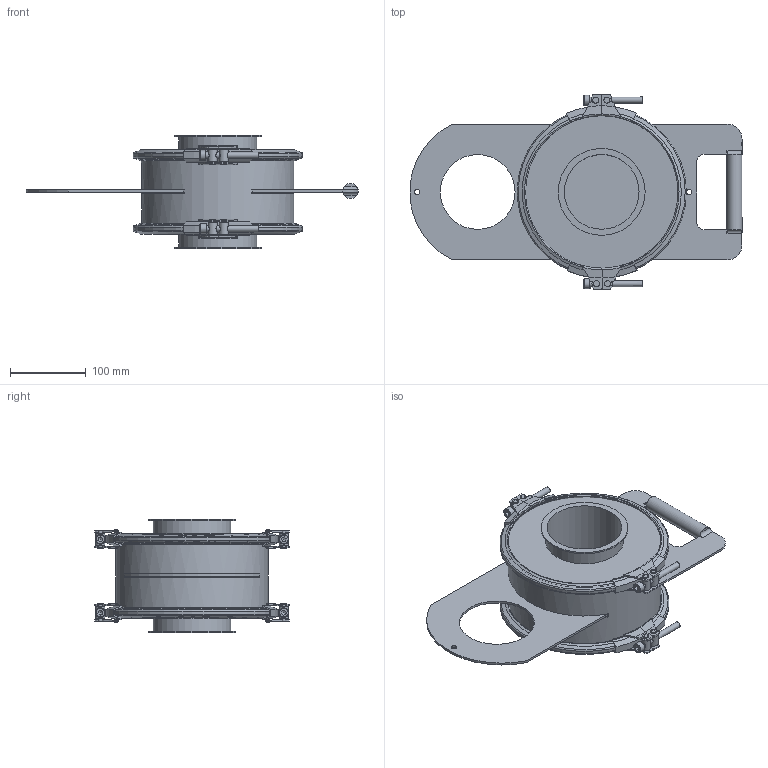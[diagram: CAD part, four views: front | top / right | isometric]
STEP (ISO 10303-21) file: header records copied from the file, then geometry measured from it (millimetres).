
FILE_DESCRIPTION((''),'2;1');
FILE_NAME('U:\Wolfgang\Marcel-3D\fertig\Kapitel 9\1021081.stp','2011-10-11T12:57:34',('iwienholt'),(''),'Autodesk Inventor 2010','Autodesk Inventor 2010','');
FILE_SCHEMA(('AUTOMOTIVE_DESIGN { 1 0 10303 214 1 1 1 1 }'));
Length unit declared in the file: millimetre
Products named in the file (10): 1021081; Rohr DN100; Schieber DN100; 2022055; 2022055-1; Verschluss b=224; Verschlussrolle; VerschlussrolleGewinde; ISO 4762 M8 x 70; 2022055-Dichtmasse
Assembly tree (17 placements, depth 3):
  1021081
    Rohr DN100
    Schieber DN100
    2022055  x2
      2022055-1
      Verschluss b=224
      Verschlussrolle
      VerschlussrolleGewinde
      ISO 4762 M8 x 70
      2022055-Dichtmasse
Bounding box: 439.63 x 257.99 x 150 mm (x, y, z)
Volume: 802190.2 mm3; surface area: 653500.3 mm2
Topology: 28 solids, 28 shells, 870 faces, 2306 edges, 1522 vertices
Faces by surface type: cylinder 269, plane 246, bspline 175, cone 144, torus 36
Full cylindrical faces by diameter (mm): 5 x16, 6 x4, 8 x20, 12 x8, 13 x4, 20 x1, 99 x3, 103 x4, 115 x1, 199 x1, 202 x3, 214 x1, 220 x2
Entity records: 7273 total; most frequent: CARTESIAN_POINT 2403, DIRECTION 978, ORIENTED_EDGE 890, EDGE_CURVE 445, AXIS2_PLACEMENT_3D 392, VERTEX_POINT 317, EDGE_LOOP 274, FACE_OUTER_BOUND 199
